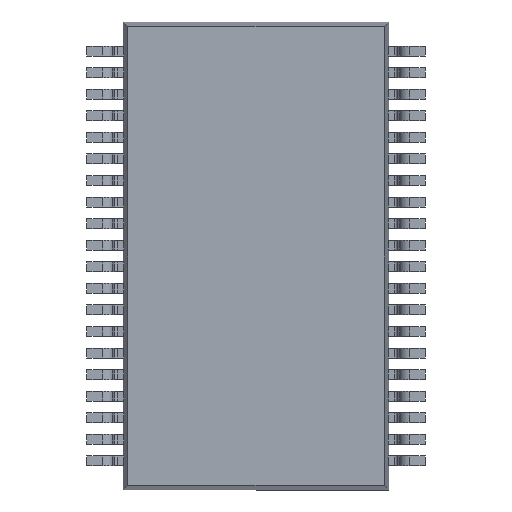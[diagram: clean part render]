
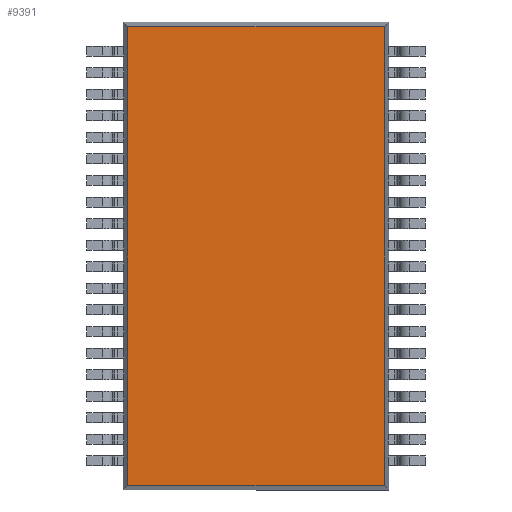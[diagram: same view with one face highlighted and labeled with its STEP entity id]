
A CAD part, front view. The second image highlights one B-rep face of the part: STEP entity #9391.
In plain terms, the highlighted planar face has unit normal (0, -1, 0).
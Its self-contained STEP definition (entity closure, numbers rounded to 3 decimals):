
#3893 = VECTOR ( 'NONE', #18739, 1000. ) ;
#8077 = PLANE ( 'NONE',  #11402 ) ;
#8078 = CARTESIAN_POINT ( 'NONE',  ( 0., 0.1, 0. ) ) ;
#8083 = DIRECTION ( 'NONE',  ( 0., 1., 0. ) ) ;
#8084 = DIRECTION ( 'NONE',  ( 0., 0., 1. ) ) ;
#9391 = ADVANCED_FACE ( 'NONE', ( #13808 ), #8077, .F. ) ;
#11402 = AXIS2_PLACEMENT_3D ( 'NONE', #8078, #8083, #8084 ) ;
#13411 = VERTEX_POINT ( 'NONE', #17189 ) ;
#13808 = FACE_OUTER_BOUND ( 'NONE', #19864, .T. ) ;
#16973 = LINE ( 'NONE', #18732, #3893 ) ;
#16987 = LINE ( 'NONE', #18736, #16989 ) ;
#16989 = VECTOR ( 'NONE', #18738, 1000. ) ;
#17189 = CARTESIAN_POINT ( 'NONE',  ( -3.859, 0.1, -6.909 ) ) ;
#17463 = CARTESIAN_POINT ( 'NONE',  ( -3.859, 0.1, 6.909 ) ) ;
#17465 = CARTESIAN_POINT ( 'NONE',  ( 3.859, 0.1, -6.909 ) ) ;
#17481 = CARTESIAN_POINT ( 'NONE',  ( 3.859, 0.1, 6.909 ) ) ;
#18732 = CARTESIAN_POINT ( 'NONE',  ( 4., 0.1, 6.909 ) ) ;
#18736 = CARTESIAN_POINT ( 'NONE',  ( 4., 0.1, -6.909 ) ) ;
#18738 = DIRECTION ( 'NONE',  ( 1., 0., 0. ) ) ;
#18739 = DIRECTION ( 'NONE',  ( -1., 0., 0. ) ) ;
#18784 = CARTESIAN_POINT ( 'NONE',  ( 3.859, 0.1, 7.05 ) ) ;
#18785 = CARTESIAN_POINT ( 'NONE',  ( -3.859, 0.1, 7.05 ) ) ;
#18798 = DIRECTION ( 'NONE',  ( 0., 0., -1. ) ) ;
#18814 = DIRECTION ( 'NONE',  ( 0., 0., 1. ) ) ;
#18974 = LINE ( 'NONE', #18785, #18992 ) ;
#18989 = LINE ( 'NONE', #18784, #19008 ) ;
#18992 = VECTOR ( 'NONE', #18798, 1000. ) ;
#19008 = VECTOR ( 'NONE', #18814, 1000. ) ;
#19789 = VERTEX_POINT ( 'NONE', #17463 ) ;
#19791 = VERTEX_POINT ( 'NONE', #17465 ) ;
#19857 = VERTEX_POINT ( 'NONE', #17481 ) ;
#19864 = EDGE_LOOP ( 'NONE', ( #24748, #24749, #24750, #24751 ) ) ;
#20481 = EDGE_CURVE ( 'NONE', #13411, #19791, #16987, .T. ) ;
#20482 = EDGE_CURVE ( 'NONE', #19857, #19789, #16973, .T. ) ;
#20509 = EDGE_CURVE ( 'NONE', #19789, #13411, #18974, .T. ) ;
#20517 = EDGE_CURVE ( 'NONE', #19791, #19857, #18989, .T. ) ;
#24748 = ORIENTED_EDGE ( 'NONE', *, *, #20509, .T. ) ;
#24749 = ORIENTED_EDGE ( 'NONE', *, *, #20481, .T. ) ;
#24750 = ORIENTED_EDGE ( 'NONE', *, *, #20517, .T. ) ;
#24751 = ORIENTED_EDGE ( 'NONE', *, *, #20482, .T. ) ;
